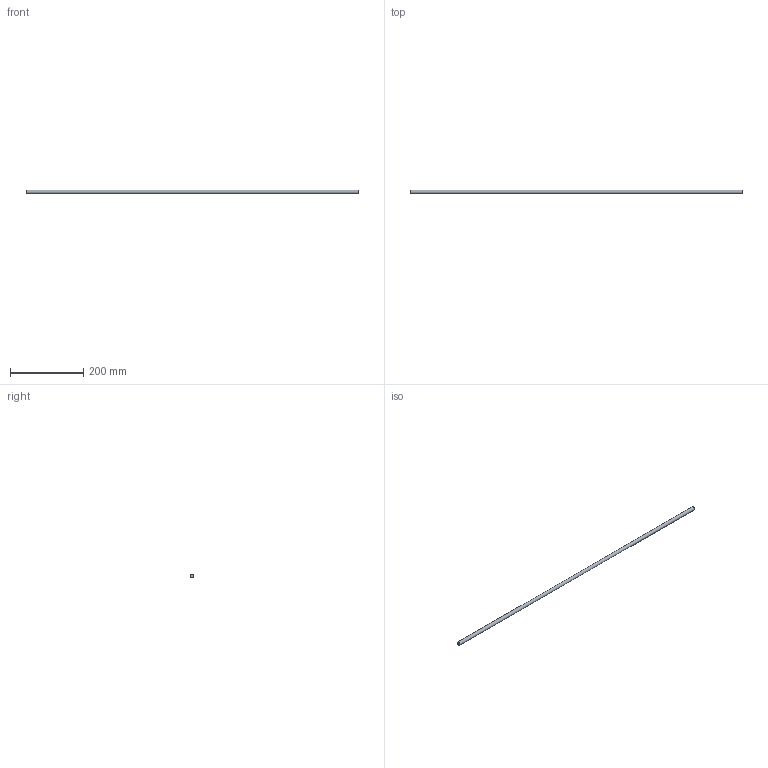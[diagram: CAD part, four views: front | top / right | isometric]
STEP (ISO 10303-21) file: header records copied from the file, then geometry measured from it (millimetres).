
FILE_DESCRIPTION(('Open CASCADE Model'),'2;1');
FILE_NAME('Open CASCADE Shape Model','2026-09-07T11:14:25',('Author'),( 'Open CASCADE'),'Open CASCADE STEP processor 7.9','Open CASCADE 7.9' ,'Unknown');
FILE_SCHEMA(('AUTOMOTIVE_DESIGN { 1 0 10303 214 1 1 1 1 }'));
Length unit declared in the file: millimetre
Products named in the file (1): Open CASCADE STEP translator 7.9 24
Bounding box: 907.69 x 10 x 10 mm (x, y, z)
Volume: 71290 mm3; surface area: 28673.1 mm2
Topology: 1 solids, 1 shells, 3 faces, 3 edges, 2 vertices
Faces by surface type: plane 2, cylinder 1
Full cylindrical faces by diameter (mm): 10 x1
Entity records: 108 total; most frequent: DIRECTION 19, CARTESIAN_POINT 15, AXIS2_PLACEMENT_3D 6, ORIENTED_EDGE 6, PCURVE 6, DEFINITIONAL_REPRESENTATION 6, LINE 5, VECTOR 5
